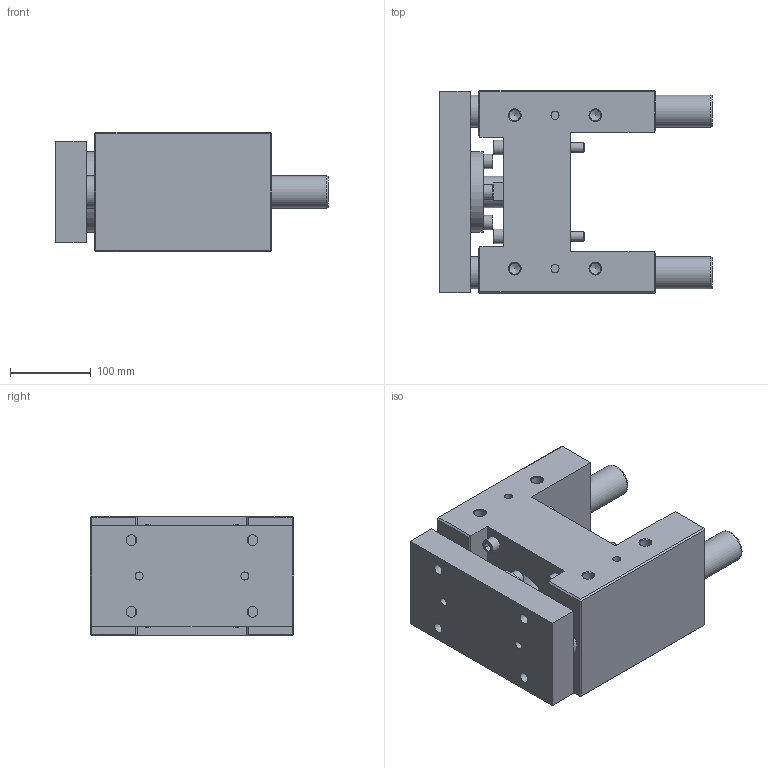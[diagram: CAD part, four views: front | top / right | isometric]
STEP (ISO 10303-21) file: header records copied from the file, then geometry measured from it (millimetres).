
FILE_DESCRIPTION( ( 'STEP AP214' ), '1' );
FILE_NAME( 'U:/Etudes/Top Solid/BIBLIO 3D AVM/TOP/PNEUMATIQUE/GUIDAGES/Type 32 (en H)/S_Lourde/320S1130.step', '2005-05-27T09:29:55', ( ' ' ), ( ' ' ), 'XStep 1.0', ' ', ' ' );
FILE_SCHEMA( ( 'automotive_design' ) );
Length unit declared in the file: metre
Products named in the file (2): 1; 2
Bounding box: 338 x 252 x 148 mm (x, y, z)
Volume: 6459211.1 mm3; surface area: 550960.9 mm2
Topology: 2 solids, 7 shells, 238 faces, 524 edges, 339 vertices
Faces by surface type: plane 149, cylinder 68, cone 21
Full cylindrical faces by diameter (mm): 10 x4, 10.106 x4, 12 x16, 13 x12, 13.835 x8, 18 x8, 20 x4, 24.835 x1, 39 x1, 40 x4, 42 x1, 57 x1, 60 x2, 65 x1, 100 x1
Entity records: 7905 total; most frequent: CARTESIAN_POINT 1198, DIRECTION 996, ORIENTED_EDGE 784, EDGE_CURVE 392, EDGE_LOOP 390, AXIS2_PLACEMENT_3D 372, FACE_OUTER_BOUND 306, VERTEX_POINT 302
